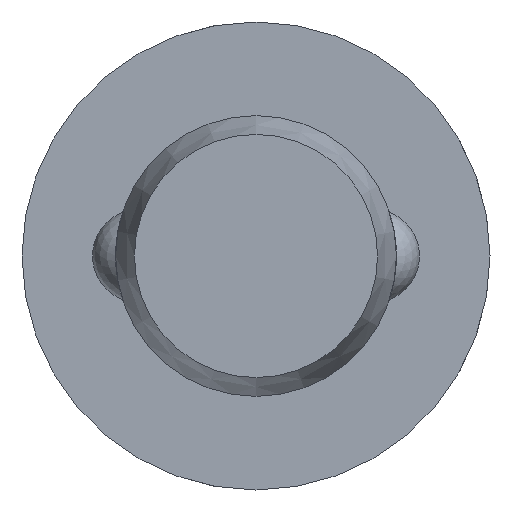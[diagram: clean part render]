
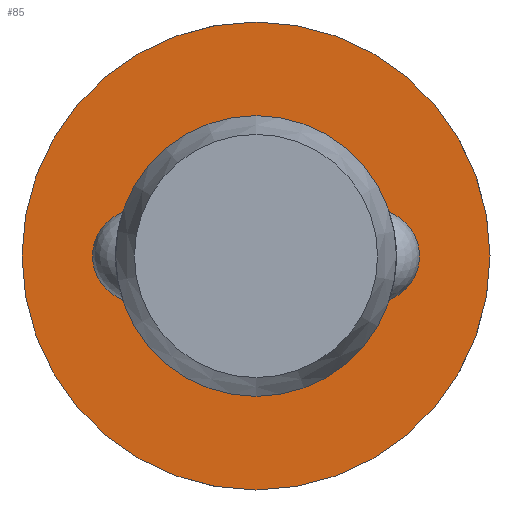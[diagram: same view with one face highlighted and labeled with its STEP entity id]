
A CAD part, left-side view. The second image highlights one B-rep face of the part: STEP entity #85.
In plain terms, the highlighted planar face has unit normal (-1, 0, 0).
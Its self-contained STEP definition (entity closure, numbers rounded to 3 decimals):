
#85 = ADVANCED_FACE( '', ( #131, #132 ), #133, .F. );
#131 = FACE_OUTER_BOUND( '', #204, .T. );
#132 = FACE_BOUND( '', #205, .T. );
#133 = PLANE( '', #206 );
#204 = EDGE_LOOP( '', ( #322 ) );
#205 = EDGE_LOOP( '', ( #323 ) );
#206 = AXIS2_PLACEMENT_3D( '', #324, #325, #326 );
#322 = ORIENTED_EDGE( '', *, *, #470, .F. );
#323 = ORIENTED_EDGE( '', *, *, #467, .T. );
#324 = CARTESIAN_POINT( '', ( 42., 3., 0. ) );
#325 = DIRECTION( '', ( 1., 0., 0. ) );
#326 = DIRECTION( '', ( 0., 0., -1. ) );
#467 = EDGE_CURVE( '', #541, #541, #542, .T. );
#470 = EDGE_CURVE( '', #547, #547, #548, .T. );
#541 = VERTEX_POINT( '', #749 );
#542 = CIRCLE( '', #750, 3. );
#547 = VERTEX_POINT( '', #817 );
#548 = CIRCLE( '', #818, 5. );
#749 = CARTESIAN_POINT( '', ( 42., 0., -3. ) );
#750 = AXIS2_PLACEMENT_3D( '', #897, #898, #899 );
#817 = CARTESIAN_POINT( '', ( 42., 0., -5. ) );
#818 = AXIS2_PLACEMENT_3D( '', #900, #901, #902 );
#897 = CARTESIAN_POINT( '', ( 42., 0., 0. ) );
#898 = DIRECTION( '', ( 1., 0., 0. ) );
#899 = DIRECTION( '', ( 0., 0., -1. ) );
#900 = CARTESIAN_POINT( '', ( 42., 0., 0. ) );
#901 = DIRECTION( '', ( 1., 0., 0. ) );
#902 = DIRECTION( '', ( 0., 0., -1. ) );
